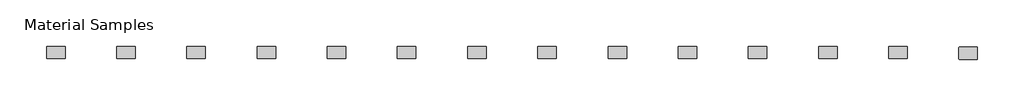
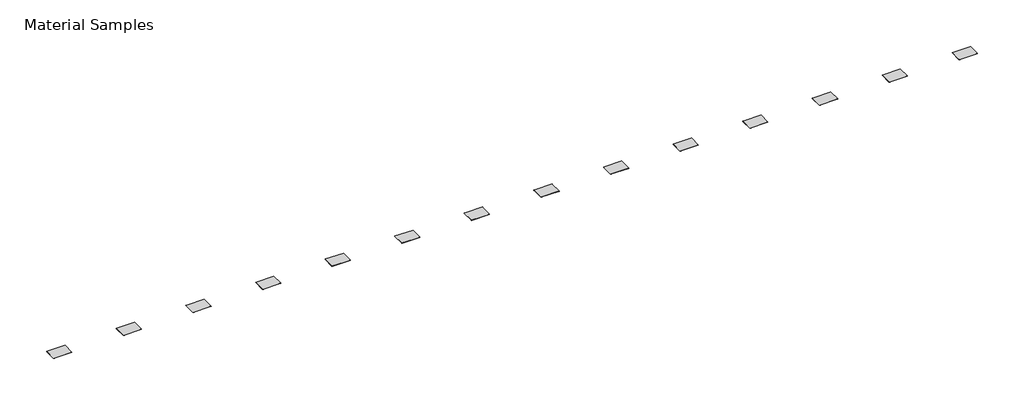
# One storey: 14 furniture elements.
"""IFC4 building model written with IfcOpenShell, lengths in millimetres."""

from ifc_helpers import new_model, si_unit, origin, place, context, project, spatial, transform, mapped, element, save
from components import furniture_2008_material_sample3_2x3x1_8_96bf408c

model = new_model("IFC4")

# Units and contexts
model_context = context("Model", 3, world=origin())
ifc_project = project(units=[si_unit("LENGTHUNIT", "METRE", prefix="MILLI")], contexts=[model_context])

# Site, building, storey
site = spatial("IfcSite", under=ifc_project)
building = spatial("IfcBuilding", under=site)
storey = spatial("IfcBuildingStorey", under=building, Name="Material Samples", Elevation=0.0)

# Furniture
placement = place(None, origin())
furniture_2008_material_sample3_2x3x1_8_shape = furniture_2008_material_sample3_2x3x1_8_96bf408c(model_context)
element("IfcFurniture", 1, ObjectType="2008_Material Sample3 : 2x3x1/8", at=placement, inside=storey, context=model_context, shape_type="MappedRepresentation", body=[
    mapped(furniture_2008_material_sample3_2x3x1_8_shape, transform((-41929.8143121, 3848.1724709, 25.4), x_axis=(1.0, 0.0, 0.0), y_axis=(0.0, 1.0, 0.0), z_axis=(0.0, 0.0, 1.0))),
])
element("IfcFurniture", 2, ObjectType="2008_Material Sample3 : 2x3x1/8", at=placement, inside=storey, context=model_context, shape_type="MappedRepresentation", body=[
    mapped(furniture_2008_material_sample3_2x3x1_8_shape, transform((-40482.0143121, 3848.1724709, 25.4), x_axis=(1.0, 0.0, 0.0), y_axis=(0.0, 1.0, 0.0), z_axis=(0.0, 0.0, 1.0))),
])
element("IfcFurniture", 3, ObjectType="2008_Material Sample3 : 2x3x1/8", at=placement, inside=storey, context=model_context, shape_type="MappedRepresentation", body=[
    mapped(furniture_2008_material_sample3_2x3x1_8_shape, transform((-39034.2143121, 3848.1724709, 25.4), x_axis=(1.0, 0.0, 0.0), y_axis=(0.0, 1.0, 0.0), z_axis=(0.0, 0.0, 1.0))),
])
element("IfcFurniture", 4, ObjectType="2008_Material Sample3 : 2x3x1/8", at=placement, inside=storey, context=model_context, shape_type="MappedRepresentation", body=[
    mapped(furniture_2008_material_sample3_2x3x1_8_shape, transform((-37586.4143121, 3848.1724709, 25.4), x_axis=(1.0, 0.0, 0.0), y_axis=(0.0, 1.0, 0.0), z_axis=(0.0, 0.0, 1.0))),
])
element("IfcFurniture", 5, ObjectType="2008_Material Sample3 : 2x3x1/8", at=placement, inside=storey, context=model_context, shape_type="MappedRepresentation", body=[
    mapped(furniture_2008_material_sample3_2x3x1_8_shape, transform((-36138.6143121, 3848.1724709, 25.4), x_axis=(1.0, 0.0, 0.0), y_axis=(0.0, 1.0, 0.0), z_axis=(0.0, 0.0, 1.0))),
])
element("IfcFurniture", 6, ObjectType="2008_Material Sample3 : 2x3x1/8", at=placement, inside=storey, context=model_context, shape_type="MappedRepresentation", body=[
    mapped(furniture_2008_material_sample3_2x3x1_8_shape, transform((-34690.8143121, 3848.1724709, 25.4), x_axis=(1.0, 0.0, 0.0), y_axis=(0.0, 1.0, 0.0), z_axis=(0.0, 0.0, 1.0))),
])
element("IfcFurniture", 7, ObjectType="2008_Material Sample3 : 2x3x1/8", at=placement, inside=storey, context=model_context, shape_type="MappedRepresentation", body=[
    mapped(furniture_2008_material_sample3_2x3x1_8_shape, transform((-33243.0143121, 3848.1724709, 25.4), x_axis=(1.0, 0.0, 0.0), y_axis=(0.0, 1.0, 0.0), z_axis=(0.0, 0.0, 1.0))),
])
element("IfcFurniture", 8, ObjectType="2008_Material Sample3 : 2x3x1/8", at=placement, inside=storey, context=model_context, shape_type="MappedRepresentation", body=[
    mapped(furniture_2008_material_sample3_2x3x1_8_shape, transform((-31795.2143121, 3848.1724709, 25.4), x_axis=(1.0, 0.0, 0.0), y_axis=(0.0, 1.0, 0.0), z_axis=(0.0, 0.0, 1.0))),
])
element("IfcFurniture", 9, ObjectType="2008_Material Sample3 : 2x3x1/8", at=placement, inside=storey, context=model_context, shape_type="MappedRepresentation", body=[
    mapped(furniture_2008_material_sample3_2x3x1_8_shape, transform((-30347.4143121, 3848.1724709, 25.4), x_axis=(1.0, 0.0, 0.0), y_axis=(0.0, 1.0, 0.0), z_axis=(0.0, 0.0, 1.0))),
])
element("IfcFurniture", 10, ObjectType="2008_Material Sample3 : 2x3x1/8", at=placement, inside=storey, context=model_context, shape_type="MappedRepresentation", body=[
    mapped(furniture_2008_material_sample3_2x3x1_8_shape, transform((-28899.6143121, 3848.1724709, 25.4), x_axis=(1.0, 0.0, 0.0), y_axis=(0.0, 1.0, 0.0), z_axis=(0.0, 0.0, 1.0))),
])
element("IfcFurniture", 11, ObjectType="2008_Material Sample3 : 2x3x1/8", at=placement, inside=storey, context=model_context, shape_type="MappedRepresentation", body=[
    mapped(furniture_2008_material_sample3_2x3x1_8_shape, transform((-27451.8143121, 3848.1724709, 25.4), x_axis=(1.0, 0.0, 0.0), y_axis=(0.0, 1.0, 0.0), z_axis=(0.0, 0.0, 1.0))),
])
element("IfcFurniture", 12, ObjectType="2008_Material Sample3 : 2x3x1/8", at=placement, inside=storey, context=model_context, shape_type="MappedRepresentation", body=[
    mapped(furniture_2008_material_sample3_2x3x1_8_shape, transform((-26004.0143121, 3848.1724709, 25.4), x_axis=(1.0, 0.0, 0.0), y_axis=(0.0, 1.0, 0.0), z_axis=(0.0, 0.0, 1.0))),
])
element("IfcFurniture", 13, ObjectType="2008_Material Sample3 : 2x3x1/8", at=placement, inside=storey, context=model_context, shape_type="MappedRepresentation", body=[
    mapped(furniture_2008_material_sample3_2x3x1_8_shape, transform((-24556.2143121, 3848.1724709, 25.4), x_axis=(1.0, 0.0, 0.0), y_axis=(0.0, 1.0, 0.0), z_axis=(0.0, 0.0, 1.0))),
])
element("IfcFurniture", 14, ObjectType="2008_Material Sample3 : 2x3x1/8", at=placement, inside=storey, context=model_context, shape_type="MappedRepresentation", body=[
    mapped(furniture_2008_material_sample3_2x3x1_8_shape, transform((-23108.4143121, 3829.1224709, 25.4), x_axis=(1.0, 0.0, 0.0), y_axis=(0.0, 1.0, 0.0), z_axis=(0.0, 0.0, 1.0))),
])

save(model, "model.ifc")
